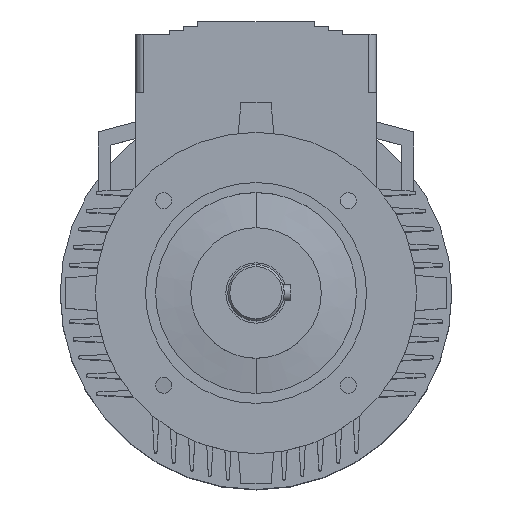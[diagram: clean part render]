
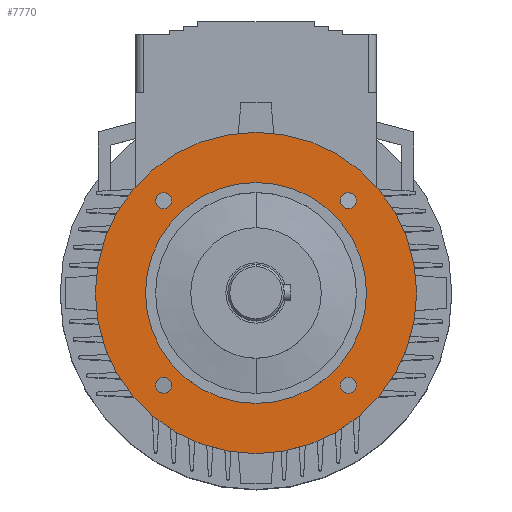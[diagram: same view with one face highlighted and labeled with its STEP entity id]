
A CAD part, top view. The second image highlights one B-rep face of the part: STEP entity #7770.
In plain terms, the highlighted planar face has unit normal (0, 0, 1).
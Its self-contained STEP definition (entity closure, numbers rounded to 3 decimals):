
#2371=CARTESIAN_POINT('',(-45.962,45.962,38.));
#2372=DIRECTION('',(0.,0.,-1.));
#2373=DIRECTION('',(-1.,0.,0.));
#2374=AXIS2_PLACEMENT_3D('',#2371,#2372,#2373);
#2376=CARTESIAN_POINT('',(-45.962,45.962,38.));
#2377=DIRECTION('',(0.,0.,-1.));
#2378=DIRECTION('',(1.,0.,0.));
#2379=AXIS2_PLACEMENT_3D('',#2376,#2377,#2378);
#2381=CARTESIAN_POINT('',(-45.962,-45.962,38.));
#2382=DIRECTION('',(0.,0.,-1.));
#2383=DIRECTION('',(-1.,0.,0.));
#2384=AXIS2_PLACEMENT_3D('',#2381,#2382,#2383);
#2386=CARTESIAN_POINT('',(-45.962,-45.962,38.));
#2387=DIRECTION('',(0.,0.,-1.));
#2388=DIRECTION('',(1.,0.,0.));
#2389=AXIS2_PLACEMENT_3D('',#2386,#2387,#2388);
#2391=CARTESIAN_POINT('',(45.962,-45.962,38.));
#2392=DIRECTION('',(0.,0.,-1.));
#2393=DIRECTION('',(-1.,0.,0.));
#2394=AXIS2_PLACEMENT_3D('',#2391,#2392,#2393);
#2396=CARTESIAN_POINT('',(45.962,-45.962,38.));
#2397=DIRECTION('',(0.,0.,-1.));
#2398=DIRECTION('',(1.,0.,0.));
#2399=AXIS2_PLACEMENT_3D('',#2396,#2397,#2398);
#2401=CARTESIAN_POINT('',(0.,0.,38.));
#2402=DIRECTION('',(0.,0.,1.));
#2403=DIRECTION('',(0.,1.,0.));
#2404=AXIS2_PLACEMENT_3D('',#2401,#2402,#2403);
#2406=CARTESIAN_POINT('',(0.,0.,38.));
#2407=DIRECTION('',(0.,0.,-1.));
#2408=DIRECTION('',(0.,1.,0.));
#2409=AXIS2_PLACEMENT_3D('',#2406,#2407,#2408);
#2411=CARTESIAN_POINT('',(45.962,45.962,38.));
#2412=DIRECTION('',(0.,0.,-1.));
#2413=DIRECTION('',(-1.,0.,0.));
#2414=AXIS2_PLACEMENT_3D('',#2411,#2412,#2413);
#2416=CARTESIAN_POINT('',(45.962,45.962,38.));
#2417=DIRECTION('',(0.,0.,-1.));
#2418=DIRECTION('',(1.,0.,0.));
#2419=AXIS2_PLACEMENT_3D('',#2416,#2417,#2418);
#2803=CARTESIAN_POINT('',(0.,0.,38.));
#2804=DIRECTION('',(0.,0.,1.));
#2805=DIRECTION('',(0.,1.,0.));
#2806=AXIS2_PLACEMENT_3D('',#2803,#2804,#2805);
#2808=CARTESIAN_POINT('',(0.,0.,38.));
#2809=DIRECTION('',(0.,0.,-1.));
#2810=DIRECTION('',(0.,1.,0.));
#2811=AXIS2_PLACEMENT_3D('',#2808,#2809,#2810);
#3541=CARTESIAN_POINT('',(0.,80.,38.));
#3543=VERTEX_POINT('',#3541);
#3544=CARTESIAN_POINT('',(0.,55.,38.));
#3546=VERTEX_POINT('',#3544);
#3549=CARTESIAN_POINT('',(0.,-80.,38.));
#3551=VERTEX_POINT('',#3549);
#3552=CARTESIAN_POINT('',(0.,-55.,38.));
#3554=VERTEX_POINT('',#3552);
#3564=CARTESIAN_POINT('',(41.962,45.962,38.));
#3565=CARTESIAN_POINT('',(49.962,45.962,38.));
#3566=VERTEX_POINT('',#3564);
#3567=VERTEX_POINT('',#3565);
#3568=CARTESIAN_POINT('',(41.962,-45.962,38.));
#3569=CARTESIAN_POINT('',(49.962,-45.962,38.));
#3570=VERTEX_POINT('',#3568);
#3571=VERTEX_POINT('',#3569);
#3572=CARTESIAN_POINT('',(-49.962,-45.962,38.));
#3573=CARTESIAN_POINT('',(-41.962,-45.962,38.));
#3574=VERTEX_POINT('',#3572);
#3575=VERTEX_POINT('',#3573);
#3576=CARTESIAN_POINT('',(-49.962,45.962,38.));
#3577=CARTESIAN_POINT('',(-41.962,45.962,38.));
#3578=VERTEX_POINT('',#3576);
#3579=VERTEX_POINT('',#3577);
#7731=CARTESIAN_POINT('',(0.,0.,38.));
#7732=DIRECTION('',(0.,0.,-1.));
#7733=DIRECTION('',(0.,-1.,0.));
#7734=AXIS2_PLACEMENT_3D('',#7731,#7732,#7733);
#7735=PLANE('',#7734);
#7736=ORIENTED_EDGE('',*,*,#7724,.F.);
#7737=ORIENTED_EDGE('',*,*,#7713,.T.);
#7738=EDGE_LOOP('',(#7736,#7737));
#7739=FACE_OUTER_BOUND('',#7738,.F.);
#7741=ORIENTED_EDGE('',*,*,#7740,.F.);
#7743=ORIENTED_EDGE('',*,*,#7742,.F.);
#7744=EDGE_LOOP('',(#7741,#7743));
#7745=FACE_BOUND('',#7744,.F.);
#7747=ORIENTED_EDGE('',*,*,#7746,.F.);
#7749=ORIENTED_EDGE('',*,*,#7748,.F.);
#7750=EDGE_LOOP('',(#7747,#7749));
#7751=FACE_BOUND('',#7750,.F.);
#7753=ORIENTED_EDGE('',*,*,#7752,.F.);
#7755=ORIENTED_EDGE('',*,*,#7754,.F.);
#7756=EDGE_LOOP('',(#7753,#7755));
#7757=FACE_BOUND('',#7756,.F.);
#7759=ORIENTED_EDGE('',*,*,#7758,.F.);
#7761=ORIENTED_EDGE('',*,*,#7760,.T.);
#7762=EDGE_LOOP('',(#7759,#7761));
#7763=FACE_BOUND('',#7762,.F.);
#7765=ORIENTED_EDGE('',*,*,#7764,.F.);
#7767=ORIENTED_EDGE('',*,*,#7766,.F.);
#7768=EDGE_LOOP('',(#7765,#7767));
#7769=FACE_BOUND('',#7768,.F.);
#7770=ADVANCED_FACE('',(#7739,#7745,#7751,#7757,#7763,#7769),#7735,.F.);
#2375=CIRCLE('',#2374,4.);
#2380=CIRCLE('',#2379,4.);
#2385=CIRCLE('',#2384,4.);
#2390=CIRCLE('',#2389,4.);
#2395=CIRCLE('',#2394,4.);
#2400=CIRCLE('',#2399,4.);
#2405=CIRCLE('',#2404,80.);
#2410=CIRCLE('',#2409,80.);
#2415=CIRCLE('',#2414,4.);
#2420=CIRCLE('',#2419,4.);
#2807=CIRCLE('',#2806,55.);
#2812=CIRCLE('',#2811,55.);
#7713=EDGE_CURVE('',#3543,#3551,#2410,.T.);
#7724=EDGE_CURVE('',#3543,#3551,#2405,.T.);
#7740=EDGE_CURVE('',#3578,#3579,#2375,.T.);
#7742=EDGE_CURVE('',#3579,#3578,#2380,.T.);
#7746=EDGE_CURVE('',#3574,#3575,#2385,.T.);
#7748=EDGE_CURVE('',#3575,#3574,#2390,.T.);
#7752=EDGE_CURVE('',#3570,#3571,#2395,.T.);
#7754=EDGE_CURVE('',#3571,#3570,#2400,.T.);
#7758=EDGE_CURVE('',#3546,#3554,#2812,.T.);
#7760=EDGE_CURVE('',#3546,#3554,#2807,.T.);
#7764=EDGE_CURVE('',#3566,#3567,#2415,.T.);
#7766=EDGE_CURVE('',#3567,#3566,#2420,.T.);
